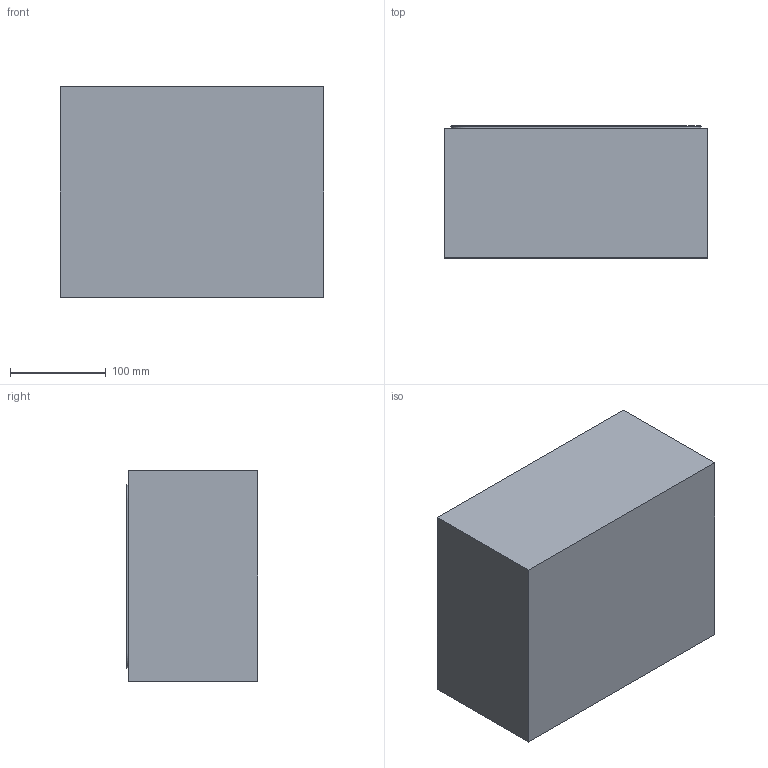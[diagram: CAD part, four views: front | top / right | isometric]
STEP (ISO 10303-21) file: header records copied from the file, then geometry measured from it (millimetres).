
FILE_DESCRIPTION (( 'STEP AP203' ), '1' );
FILE_NAME ('bottom inside type 2000.STEP', '2013-07-04T13:22:25', ( 'Master' ), ( '' ), 'SwSTEP 2.0', 'SolidWorks 2013', '' );
FILE_SCHEMA (( 'CONFIG_CONTROL_DESIGN' ));
Length unit declared in the file: millimetre
Products named in the file (1): bottom inside type 2000
Bounding box: 275 x 137.8 x 219.95 mm (x, y, z)
Volume: 2778120.3 mm3; surface area: 356942.4 mm2
Topology: 1 solids, 1 shells, 110 faces, 246 edges, 152 vertices
Faces by surface type: plane 44, bspline 24, cone 20, cylinder 18, sphere 4
Entity records: 5017 total; most frequent: CARTESIAN_POINT 2711, ORIENTED_EDGE 484, DIRECTION 400, EDGE_CURVE 242, VERTEX_POINT 152, AXIS2_PLACEMENT_3D 137, EDGE_LOOP 128, VECTOR 126
